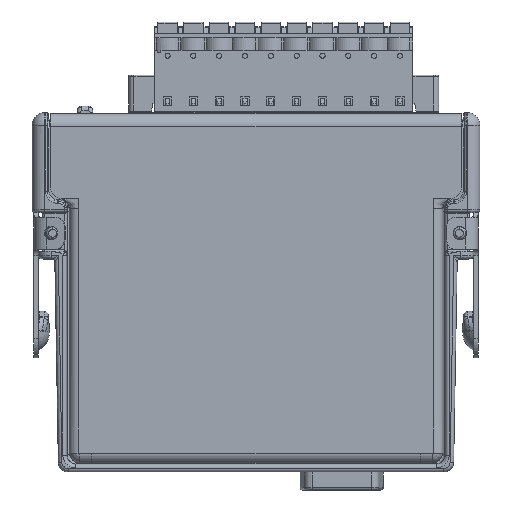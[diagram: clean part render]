
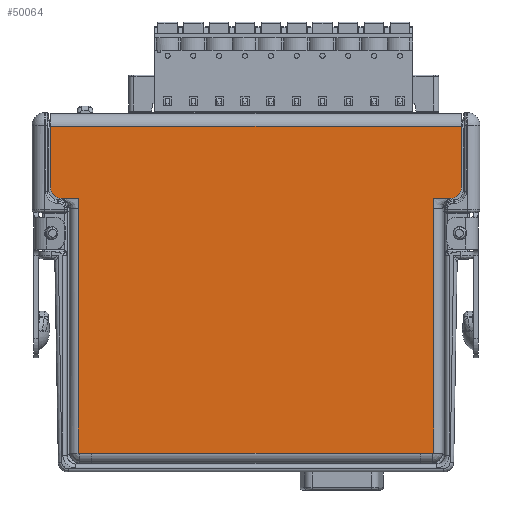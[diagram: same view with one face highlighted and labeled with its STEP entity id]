
A CAD part, left-side view. The second image highlights one B-rep face of the part: STEP entity #50064.
In plain terms, the highlighted planar face has unit normal (-1, 0, 0).
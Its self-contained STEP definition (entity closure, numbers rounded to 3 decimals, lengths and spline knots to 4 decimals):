
#17362=DIRECTION('',(0.,-1.,0.));
#17363=VECTOR('',#17362,3.179);
#17364=CARTESIAN_POINT('',(-0.4475,1.5895,2.676));
#17365=LINE('',#17364,#17363);
#17490=CARTESIAN_POINT('',(-0.4475,1.5095,2.2));
#17491=DIRECTION('',(-1.,0.,0.));
#17492=DIRECTION('',(0.,1.,0.));
#17493=AXIS2_PLACEMENT_3D('',#17490,#17491,#17492);
#17495=DIRECTION('',(0.,-1.,0.));
#17496=VECTOR('',#17495,0.133);
#17497=CARTESIAN_POINT('',(-0.4475,1.5095,2.12));
#17498=LINE('',#17497,#17496);
#17507=DIRECTION('',(0.,0.,-1.));
#17508=VECTOR('',#17507,0.476);
#17509=CARTESIAN_POINT('',(-0.4475,1.5895,2.676));
#17510=LINE('',#17509,#17508);
#17511=DIRECTION('',(0.,0.,1.));
#17512=VECTOR('',#17511,0.476);
#17513=CARTESIAN_POINT('',(-0.4475,-1.5895,2.2));
#17514=LINE('',#17513,#17512);
#17515=DIRECTION('',(0.,0.,1.));
#17516=VECTOR('',#17515,0.079);
#17517=CARTESIAN_POINT('',(-0.4475,-1.3765,2.041));
#17518=LINE('',#17517,#17516);
#17519=DIRECTION('',(0.,-1.,0.));
#17520=VECTOR('',#17519,0.105);
#17521=CARTESIAN_POINT('',(-0.4475,-1.2715,0.146));
#17522=LINE('',#17521,#17520);
#17523=DIRECTION('',(0.,-1.,0.));
#17524=VECTOR('',#17523,0.105);
#17525=CARTESIAN_POINT('',(-0.4475,1.3765,0.146));
#17526=LINE('',#17525,#17524);
#17527=DIRECTION('',(0.,0.,1.));
#17528=VECTOR('',#17527,0.079);
#17529=CARTESIAN_POINT('',(-0.4475,1.3765,2.041));
#17530=LINE('',#17529,#17528);
#17548=CARTESIAN_POINT('',(-0.4475,-1.5095,2.2));
#17549=DIRECTION('',(-1.,0.,0.));
#17550=DIRECTION('',(0.,0.,-1.));
#17551=AXIS2_PLACEMENT_3D('',#17548,#17549,#17550);
#17561=DIRECTION('',(0.,-1.,0.));
#17562=VECTOR('',#17561,0.133);
#17563=CARTESIAN_POINT('',(-0.4475,-1.3765,2.12));
#17564=LINE('',#17563,#17562);
#17596=DIRECTION('',(0.,0.,1.));
#17597=VECTOR('',#17596,1.895);
#17598=CARTESIAN_POINT('',(-0.4475,-1.3765,0.146));
#17599=LINE('',#17598,#17597);
#17787=DIRECTION('',(0.,-1.,0.));
#17788=VECTOR('',#17787,2.543);
#17789=CARTESIAN_POINT('',(-0.4475,1.2715,0.146));
#17790=LINE('',#17789,#17788);
#19339=DIRECTION('',(0.,0.,1.));
#19340=VECTOR('',#19339,1.895);
#19341=CARTESIAN_POINT('',(-0.4475,1.3765,0.146));
#19342=LINE('',#19341,#19340);
#26090=CARTESIAN_POINT('',(-0.4475,-1.5895,2.676));
#26091=VERTEX_POINT('',#26090);
#26092=CARTESIAN_POINT('',(-0.4475,1.5895,2.676));
#26093=VERTEX_POINT('',#26092);
#26122=CARTESIAN_POINT('',(-0.4475,1.2715,0.146));
#26123=CARTESIAN_POINT('',(-0.4475,-1.2715,0.146));
#26124=VERTEX_POINT('',#26122);
#26125=VERTEX_POINT('',#26123);
#26134=CARTESIAN_POINT('',(-0.4475,-1.3765,0.146));
#26135=VERTEX_POINT('',#26134);
#26146=CARTESIAN_POINT('',(-0.4475,1.3765,0.146));
#26147=VERTEX_POINT('',#26146);
#26195=CARTESIAN_POINT('',(-0.4475,1.5095,2.12));
#26197=VERTEX_POINT('',#26195);
#26200=CARTESIAN_POINT('',(-0.4475,1.5895,2.2));
#26201=VERTEX_POINT('',#26200);
#26203=CARTESIAN_POINT('',(-0.4475,-1.5895,2.2));
#26205=VERTEX_POINT('',#26203);
#26208=CARTESIAN_POINT('',(-0.4475,-1.5095,2.12));
#26209=VERTEX_POINT('',#26208);
#26230=CARTESIAN_POINT('',(-0.4475,-1.3765,2.041));
#26231=VERTEX_POINT('',#26230);
#26234=CARTESIAN_POINT('',(-0.4475,-1.3765,2.12));
#26235=VERTEX_POINT('',#26234);
#26242=CARTESIAN_POINT('',(-0.4475,1.3765,2.041));
#26243=CARTESIAN_POINT('',(-0.4475,1.3765,2.12));
#26244=VERTEX_POINT('',#26242);
#26245=VERTEX_POINT('',#26243);
#50032=CARTESIAN_POINT('',(-0.4475,0.,1.421));
#50033=DIRECTION('',(-1.,0.,0.));
#50034=DIRECTION('',(0.,1.,0.));
#50035=AXIS2_PLACEMENT_3D('',#50032,#50033,#50034);
#50036=PLANE('',#50035);
#50037=ORIENTED_EDGE('',*,*,#50013,.F.);
#50039=ORIENTED_EDGE('',*,*,#50038,.F.);
#50040=ORIENTED_EDGE('',*,*,#49863,.T.);
#50042=ORIENTED_EDGE('',*,*,#50041,.F.);
#50044=ORIENTED_EDGE('',*,*,#50043,.F.);
#50046=ORIENTED_EDGE('',*,*,#50045,.F.);
#50048=ORIENTED_EDGE('',*,*,#50047,.F.);
#50050=ORIENTED_EDGE('',*,*,#50049,.F.);
#50052=ORIENTED_EDGE('',*,*,#50051,.F.);
#50054=ORIENTED_EDGE('',*,*,#50053,.F.);
#50056=ORIENTED_EDGE('',*,*,#50055,.F.);
#50058=ORIENTED_EDGE('',*,*,#50057,.T.);
#50060=ORIENTED_EDGE('',*,*,#50059,.T.);
#50061=ORIENTED_EDGE('',*,*,#50024,.F.);
#50062=EDGE_LOOP('',(#50037,#50039,#50040,#50042,#50044,#50046,#50048,#50050,
#50052,#50054,#50056,#50058,#50060,#50061));
#50063=FACE_OUTER_BOUND('',#50062,.F.);
#50064=ADVANCED_FACE('',(#50063),#50036,.T.);
#17494=CIRCLE('',#17493,0.08);
#17552=CIRCLE('',#17551,0.08);
#49863=EDGE_CURVE('',#26093,#26091,#17365,.T.);
#50013=EDGE_CURVE('',#26201,#26197,#17494,.T.);
#50024=EDGE_CURVE('',#26197,#26245,#17498,.T.);
#50038=EDGE_CURVE('',#26093,#26201,#17510,.T.);
#50041=EDGE_CURVE('',#26205,#26091,#17514,.T.);
#50043=EDGE_CURVE('',#26209,#26205,#17552,.T.);
#50045=EDGE_CURVE('',#26235,#26209,#17564,.T.);
#50047=EDGE_CURVE('',#26231,#26235,#17518,.T.);
#50049=EDGE_CURVE('',#26135,#26231,#17599,.T.);
#50051=EDGE_CURVE('',#26125,#26135,#17522,.T.);
#50053=EDGE_CURVE('',#26124,#26125,#17790,.T.);
#50055=EDGE_CURVE('',#26147,#26124,#17526,.T.);
#50057=EDGE_CURVE('',#26147,#26244,#19342,.T.);
#50059=EDGE_CURVE('',#26244,#26245,#17530,.T.);
